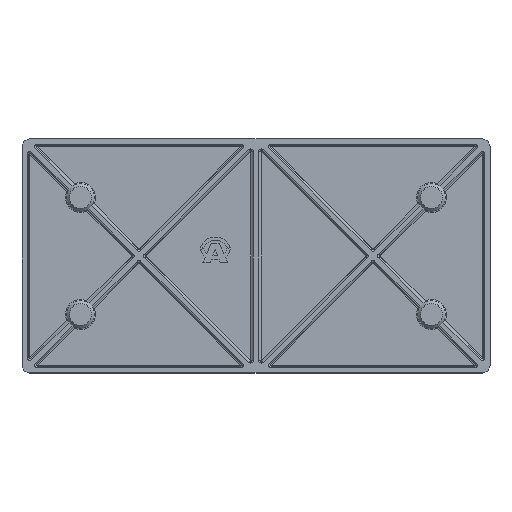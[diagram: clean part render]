
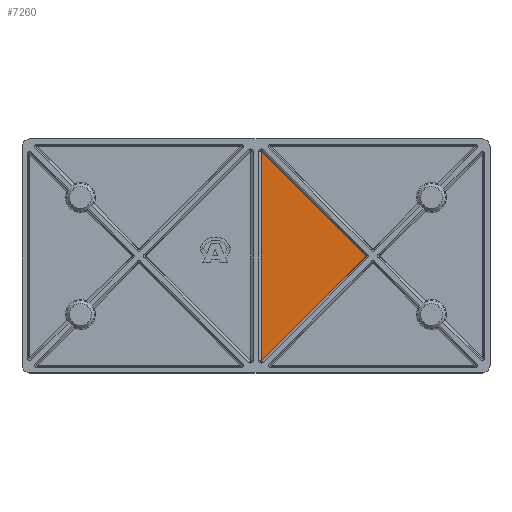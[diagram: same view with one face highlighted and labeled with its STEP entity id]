
A CAD part, top view. The second image highlights one B-rep face of the part: STEP entity #7260.
In plain terms, the highlighted planar face has unit normal (0, 0, 1).
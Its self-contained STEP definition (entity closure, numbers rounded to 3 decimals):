
#106 = PLANE ( 'NONE',  #8040 ) ;
#197 = LINE ( 'NONE', #5354, #6722 ) ;
#488 = VERTEX_POINT ( 'NONE', #3155 ) ;
#562 = EDGE_LOOP ( 'NONE', ( #3422, #6076, #8154 ) ) ;
#782 = CARTESIAN_POINT ( 'NONE',  ( 0., 0., 2.5 ) ) ;
#816 = LINE ( 'NONE', #5726, #6751 ) ;
#1411 = DIRECTION ( 'NONE',  ( 0., 0., 1. ) ) ;
#1472 = VERTEX_POINT ( 'NONE', #3925 ) ;
#1751 = EDGE_CURVE ( 'NONE', #3761, #488, #6497, .T. ) ;
#2100 = VECTOR ( 'NONE', #4406, 1000. ) ;
#3155 = CARTESIAN_POINT ( 'NONE',  ( 2., 40.172, 2.5 ) ) ;
#3422 = ORIENTED_EDGE ( 'NONE', *, *, #5566, .T. ) ;
#3430 = DIRECTION ( 'NONE',  ( 0.707, 0.707, 0. ) ) ;
#3761 = VERTEX_POINT ( 'NONE', #8076 ) ;
#3859 = FACE_OUTER_BOUND ( 'NONE', #562, .T. ) ;
#3925 = CARTESIAN_POINT ( 'NONE',  ( 2., -40.172, 2.5 ) ) ;
#4118 = EDGE_CURVE ( 'NONE', #1472, #3761, #197, .T. ) ;
#4406 = DIRECTION ( 'NONE',  ( -0.707, 0.707, 0. ) ) ;
#4550 = DIRECTION ( 'NONE',  ( 0., -1., 0. ) ) ;
#5354 = CARTESIAN_POINT ( 'NONE',  ( 42.525, 0.354, 2.5 ) ) ;
#5566 = EDGE_CURVE ( 'NONE', #488, #1472, #816, .T. ) ;
#5726 = CARTESIAN_POINT ( 'NONE',  ( 2., -41.379, 2.5 ) ) ;
#6076 = ORIENTED_EDGE ( 'NONE', *, *, #4118, .T. ) ;
#6497 = LINE ( 'NONE', #7584, #2100 ) ;
#6722 = VECTOR ( 'NONE', #3430, 1000. ) ;
#6751 = VECTOR ( 'NONE', #4550, 1000. ) ;
#7260 = ADVANCED_FACE ( 'NONE', ( #3859 ), #106, .T. ) ;
#7584 = CARTESIAN_POINT ( 'NONE',  ( 1.146, 41.025, 2.5 ) ) ;
#7701 = DIRECTION ( 'NONE',  ( 1., 0., 0. ) ) ;
#8040 = AXIS2_PLACEMENT_3D ( 'NONE', #782, #1411, #7701 ) ;
#8076 = CARTESIAN_POINT ( 'NONE',  ( 42.172, 0., 2.5 ) ) ;
#8154 = ORIENTED_EDGE ( 'NONE', *, *, #1751, .T. ) ;
